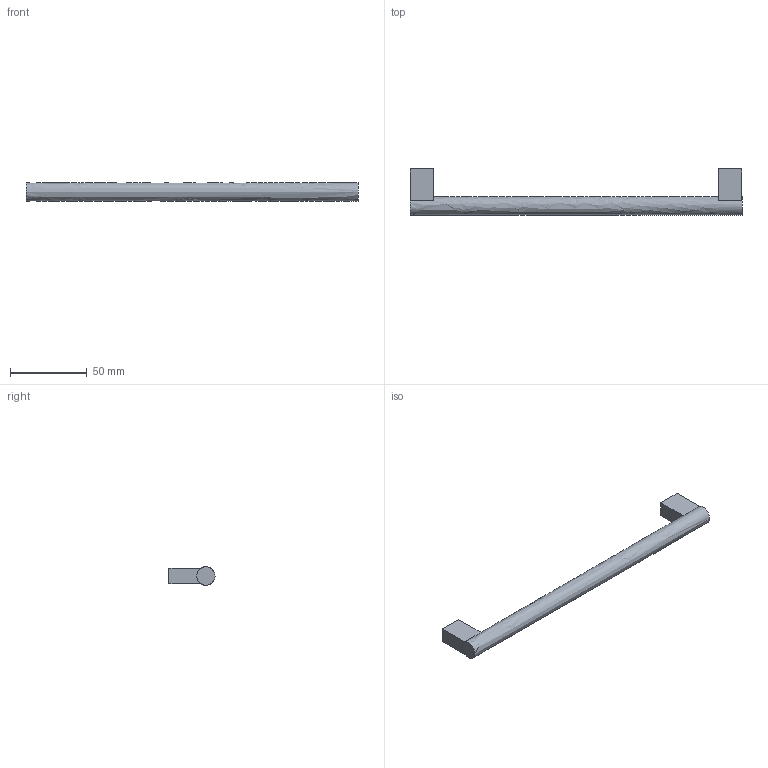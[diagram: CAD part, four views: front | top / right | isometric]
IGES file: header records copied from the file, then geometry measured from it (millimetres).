
Start section: Data from Parasolid IGES Translator 15.0.47, Copyright(c) 2006 Siemens P LM Software. All Rights Reserved.
Global section: file name: 9995500.igs; native system:  By UGS Corp.; preprocessor: XPlus GENERIC/IGES 3.0; author: Noname; organization: Noname; date: 20140122.144140; units: millimetre
Bounding box: 216 x 30 x 12 mm (x, y, z)
Surface area: 10508.4 mm2 (no closed solid volume)
Topology: 0 solids, 0 shells, 17 faces, 66 edges, 62 vertices
Faces by surface type: extrusion 14, revolution 3
